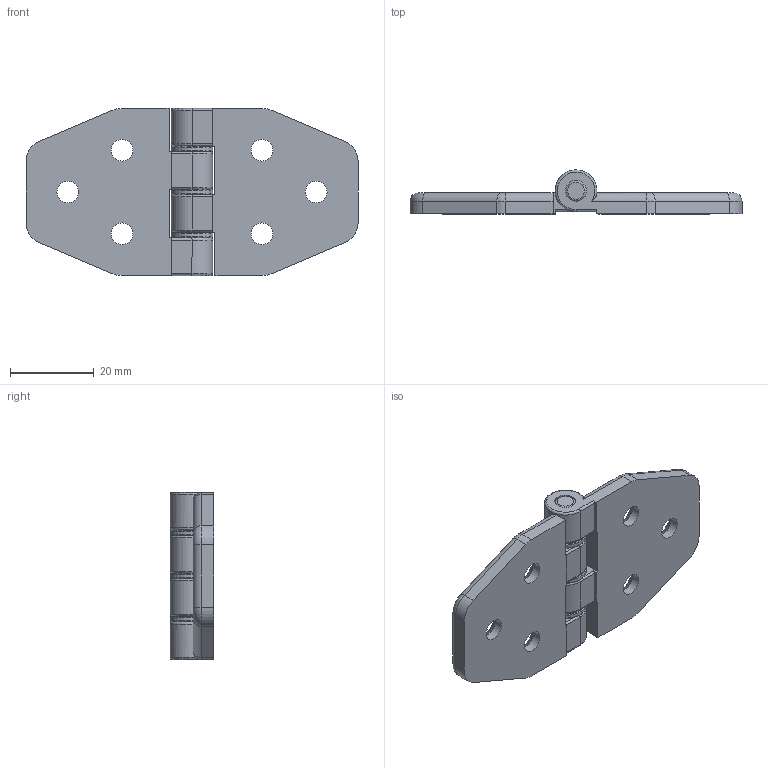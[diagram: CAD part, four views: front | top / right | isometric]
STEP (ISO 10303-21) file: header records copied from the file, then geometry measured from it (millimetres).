
FILE_DESCRIPTION(/* description */ (''),/* implementation_level */ '2;1');
FILE_NAME(/* name */ '\\NAS\db20\HC4080\DR_HC4080.stp',/* time_stamp */ '2017-08-23T13:02:35+09:00',/* author */ ('user'),/* organization */ (''),/* preprocessor_version */ 'ST-DEVELOPER v15.6',/* originating_system */ 'Autodesk Inventor 2015',/* authorisation */ '');
FILE_SCHEMA (('AUTOMOTIVE_DESIGN { 1 0 10303 214 3 1 1 }'));
Length unit declared in the file: millimetre
Products named in the file (3): DR_HC4080; DR_HC4080-PIN
Bounding box: 79.5 x 10.5 x 40 mm (x, y, z)
Volume: 13674.7 mm3; surface area: 8979.5 mm2
Topology: 3 solids, 3 shells, 117 faces, 283 edges, 178 vertices
Faces by surface type: cylinder 47, plane 40, torus 24, cone 6
Full cylindrical faces by diameter (mm): 5 x8, 5.2 x6, 10 x3
Entity records: 1974 total; most frequent: DIRECTION 353, CARTESIAN_POINT 350, ORIENTED_EDGE 268, AXIS2_PLACEMENT_3D 148, EDGE_CURVE 134, EDGE_LOOP 109, VERTEX_POINT 97, CIRCLE 72
